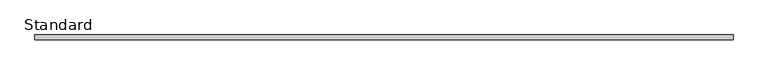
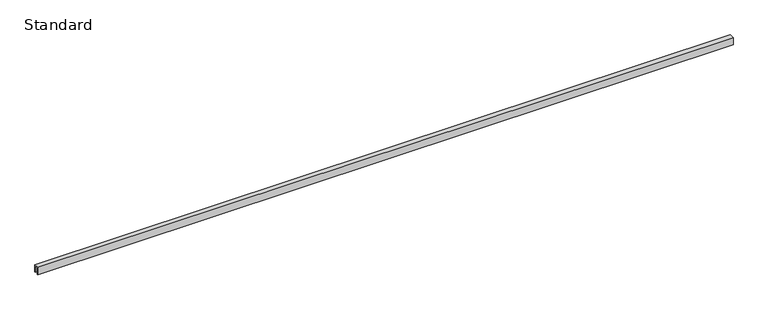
"""IFC4 building model written with IfcOpenShell, lengths in millimetres: furniture geometry, X_Partition-Channel-Duracube-Ceiling : Standard."""

import ifcopenshell
import ifcopenshell.guid

model = None  # the IFC model being written
_history = None  # IfcOwnerHistory: only IFC2X3 demands one
_inside = {}  # id of a spatial element -> (the spatial element, [elements in it])
_under = {}  # id of a project, library or spatial element -> (it, [spatial elements below it])
_declared = {}  # id of a project -> (the project, [libraries it declares])
_typed = {}  # id of a type object -> (the type object, [elements of that type])
_made_of = {}  # id of a material, layer set ... -> (it, [elements and type objects made of it])


def new_model(schema):
    """Start an empty IFC model of exactly this schema.

    Asked for "IFC4X3", IfcOpenShell would pick the latest addendum, in which some entities
    have other attributes; the version numbers below select the first issue.
    IFC2X3 requires an IfcOwnerHistory on every rooted entity: one is made here for all.
    """
    global model, _history
    if schema == "IFC4X3":
        model = ifcopenshell.file(schema_version=(4, 3, 0, 0))
    else:
        model = ifcopenshell.file(schema=schema)
    _inside.clear()
    _under.clear()
    _declared.clear()
    _typed.clear()
    _made_of.clear()
    _history = None
    if model.schema == "IFC2X3":
        org = make("IfcOrganization", Name="unknown")
        user = make(
            "IfcPersonAndOrganization",
            ThePerson=make("IfcPerson", FamilyName="unknown"),
            TheOrganization=org,
        )
        app = make(
            "IfcApplication",
            ApplicationDeveloper=org,
            Version="unknown",
            ApplicationFullName="unknown",
            ApplicationIdentifier="unknown",
        )
        _history = make(
            "IfcOwnerHistory",
            OwningUser=user,
            OwningApplication=app,
            ChangeAction="ADDED",
            CreationDate=0,
        )
    return model


def make(cls, **values):
    """One entity of the class cls with the attributes given. An attribute that is None is left unset."""
    return model.create_entity(
        cls, **{name: value for name, value in values.items() if value is not None}
    )


def rooted(cls, **values):
    """An entity with a GlobalId (a new one), such as an element, a storey or a relation."""
    return make(cls, GlobalId=ifcopenshell.guid.new(), OwnerHistory=_history, **values)


def si_unit(unit_type, name, prefix=None):
    """IfcSIUnit, for example si_unit("LENGTHUNIT", "METRE", prefix="MILLI")."""
    return make("IfcSIUnit", UnitType=unit_type, Prefix=prefix, Name=name)


def assignment(units):
    """IfcUnitAssignment: the units of a project."""
    return None if units is None else make("IfcUnitAssignment", Units=units)


def point(xyz):
    """IfcCartesianPoint."""
    return None if xyz is None else make("IfcCartesianPoint", Coordinates=xyz)


def direction(xyz):
    """IfcDirection."""
    return None if xyz is None else make("IfcDirection", DirectionRatios=xyz)


def frame(location, z_axis=None, x_axis=None):
    """IfcAxis2Placement3D, a coordinate frame: its origin and axes. An axis left out is left unset."""
    return make(
        "IfcAxis2Placement3D",
        Location=point(location),
        Axis=direction(z_axis),
        RefDirection=direction(x_axis),
    )


def origin():
    """The frame at (0, 0, 0) with its axes left unset."""
    return frame((0.0, 0.0, 0.0))


def place(relative_to, where):
    """IfcLocalPlacement: puts the frame where relative to a parent placement (None: the world)."""
    return make(
        "IfcLocalPlacement", PlacementRelTo=relative_to, RelativePlacement=where
    )


def context(
    kind, dimensions, precision=None, world=None, true_north=None, identifier=None
):
    """IfcGeometricRepresentationContext, for example the 3D "Model" context."""
    return make(
        "IfcGeometricRepresentationContext",
        ContextIdentifier=identifier,
        ContextType=kind,
        CoordinateSpaceDimension=dimensions,
        Precision=precision,
        WorldCoordinateSystem=world,
        TrueNorth=true_north,
    )


def project(units=None, contexts=None):
    """IfcProject with its units and contexts."""
    return rooted(
        "IfcProject",
        Name="project",
        RepresentationContexts=contexts,
        UnitsInContext=assignment(units),
    )


def spatial(cls, under=None, at=None, **own):
    """A site, building, storey or space (cls), placed at a placement, below another one or the project."""
    s = rooted(cls, ObjectPlacement=at, **own)
    if under is not None:
        _under.setdefault(under.id(), (under, []))[1].append(s)
    return s


def polyline(points):
    """IfcPolyline through the points."""
    return make("IfcPolyline", Points=[point(p) for p in points])


def outline(outer, holes=None, kind="AREA"):
    """IfcArbitraryClosedProfileDef: a profile drawn as a closed curve; with holes, ...WithVoids."""
    if holes is None:
        return make("IfcArbitraryClosedProfileDef", ProfileType=kind, OuterCurve=outer)
    return make(
        "IfcArbitraryProfileDefWithVoids",
        ProfileType=kind,
        OuterCurve=outer,
        InnerCurves=holes,
    )


def extrude(swept, where, along, depth):
    """IfcExtrudedAreaSolid: the profile swept, set in the frame where, extruded along a direction by depth."""
    return make(
        "IfcExtrudedAreaSolid",
        SweptArea=swept,
        Position=where,
        ExtrudedDirection=direction(along),
        Depth=depth,
    )


def shape(context_of_items, identifier, shape_type, items):
    """IfcShapeRepresentation: the items that make up one representation, for example the "Body"."""
    return make(
        "IfcShapeRepresentation",
        ContextOfItems=context_of_items,
        RepresentationIdentifier=identifier,
        RepresentationType=shape_type,
        Items=items,
    )


def source(mapping_origin, context_of_items, identifier, shape_type, items):
    """IfcRepresentationMap: a shape defined once, which mapped items show again and again."""
    return make(
        "IfcRepresentationMap",
        MappingOrigin=mapping_origin,
        MappedRepresentation=shape(context_of_items, identifier, shape_type, items),
    )


def transform(
    local_origin,
    x_axis=None,
    y_axis=None,
    z_axis=None,
    scale=None,
    scale2=None,
    scale3=None,
    uniform=True,
):
    """IfcCartesianTransformationOperator3D, or its non-uniform kind. x_axis, y_axis, z_axis: its Axis1, 2, 3."""
    if uniform:
        return make(
            "IfcCartesianTransformationOperator3D",
            Axis1=direction(x_axis),
            Axis2=direction(y_axis),
            LocalOrigin=point(local_origin),
            Scale=scale,
            Axis3=direction(z_axis),
        )
    return make(
        "IfcCartesianTransformationOperator3DnonUniform",
        Axis1=direction(x_axis),
        Axis2=direction(y_axis),
        LocalOrigin=point(local_origin),
        Scale=scale,
        Axis3=direction(z_axis),
        Scale2=scale2,
        Scale3=scale3,
    )


def mapped(mapping_source, mapping_target):
    """IfcMappedItem: shows the shape of a source again, moved by a transform."""
    return make(
        "IfcMappedItem", MappingSource=mapping_source, MappingTarget=mapping_target
    )


def made_of(thing, what):
    """Note that an element or type object is made of a material, layer set ...; save() writes the relation."""
    if what is not None:
        _made_of.setdefault(what.id(), (what, []))[1].append(thing)
    return thing


def element(
    cls,
    number,
    at=None,
    inside=None,
    cuts=None,
    type_object=None,
    material=None,
    context=None,
    identifier="Body",
    shape_type=None,
    held_by="IfcProductDefinitionShape",
    body=None,
    shapes=None,
    **own,
):
    """One element of the class cls, such as IfcWall. Its Tag is "e" and its number.

    at: its placement. inside: the storey or other place that contains it. cuts: it is an
    opening in that element (IfcRelVoidsElement). A single representation is given by context,
    identifier, shape_type and body (its items); several are given by shapes. held_by: the class
    of the entity that holds the representations. save() writes the other relations.
    """
    e = rooted(cls, Tag="e%d" % number, ObjectPlacement=at, **own)
    if body is not None:
        shapes = [shape(context, identifier, shape_type, body)]
    if shapes is not None:
        e.Representation = make(held_by, Representations=shapes)
    if inside is not None:
        _inside.setdefault(inside.id(), (inside, []))[1].append(e)
    if cuts is not None:
        rooted(
            "IfcRelVoidsElement", RelatingBuildingElement=cuts, RelatedOpeningElement=e
        )
    if type_object is not None:
        _typed.setdefault(type_object.id(), (type_object, []))[1].append(e)
    return made_of(e, material)


def aggregate(whole, parts):
    """IfcRelAggregates: a whole, such as a stair, and the parts it consists of."""
    return rooted("IfcRelAggregates", RelatingObject=whole, RelatedObjects=parts)


def save(model, path):
    """Write the relations noted so far, then the file.

    IfcRelAggregates (storeys below a building ...), IfcRelContainedInSpatialStructure (elements
    in a storey), IfcRelDefinesByType, IfcRelAssociatesMaterial and IfcRelDeclares: one each for
    every whole, place, type object, material and project.
    """
    for whole, parts in _under.values():
        aggregate(whole, parts)
    for where, things in _inside.values():
        rooted(
            "IfcRelContainedInSpatialStructure",
            RelatedElements=things,
            RelatingStructure=where,
        )
    for kind, things in _typed.values():
        rooted("IfcRelDefinesByType", RelatedObjects=things, RelatingType=kind)
    for what, things in _made_of.values():
        rooted("IfcRelAssociatesMaterial", RelatedObjects=things, RelatingMaterial=what)
    for by, libraries in _declared.values():
        rooted("IfcRelDeclares", RelatingContext=by, RelatedDefinitions=libraries)
    model.write(path)


def standard_332f851e(model_context):
    return source(origin(), model_context, "Body", "SweptSolid", [
        extrude(outline(polyline([(0.0, 0.0), (-2.0, 0.0), (-2.0, 24.0), (-15.0, 24.0), (-15.0, 0.0), (-17.0, 0.0), (-17.0, 26.0), (0.0, 26.0), (0.0, 0.0)])), frame((-1157.2996736, 0.0, 0.0), z_axis=(1.0, 0.0, 0.0), x_axis=(0.0, 1.0, 0.0)), (0.0, 0.0, 1.0), 2404.0),
    ])


if __name__ == "__main__":
    model = new_model("IFC4")
    model_context = context("Model", 3, world=origin())
    ifc_project = project(units=[si_unit("LENGTHUNIT", "METRE", prefix="MILLI")], contexts=[model_context])
    site = spatial("IfcSite", under=ifc_project)
    building = spatial("IfcBuilding", under=site)
    placement = place(None, origin())
    standard_shape = standard_332f851e(model_context)
    element("IfcFurniture", 1, ObjectType="X_Partition-Channel-Duracube-Ceiling : Standard", at=placement, inside=building, context=model_context, shape_type="MappedRepresentation", body=[
        mapped(standard_shape, transform((0.0, 0.0, 0.0), x_axis=(1.0, 0.0, 0.0), y_axis=(0.0, 1.0, 0.0), z_axis=(0.0, 0.0, 1.0))),
    ])
    save(model, "model.ifc")
